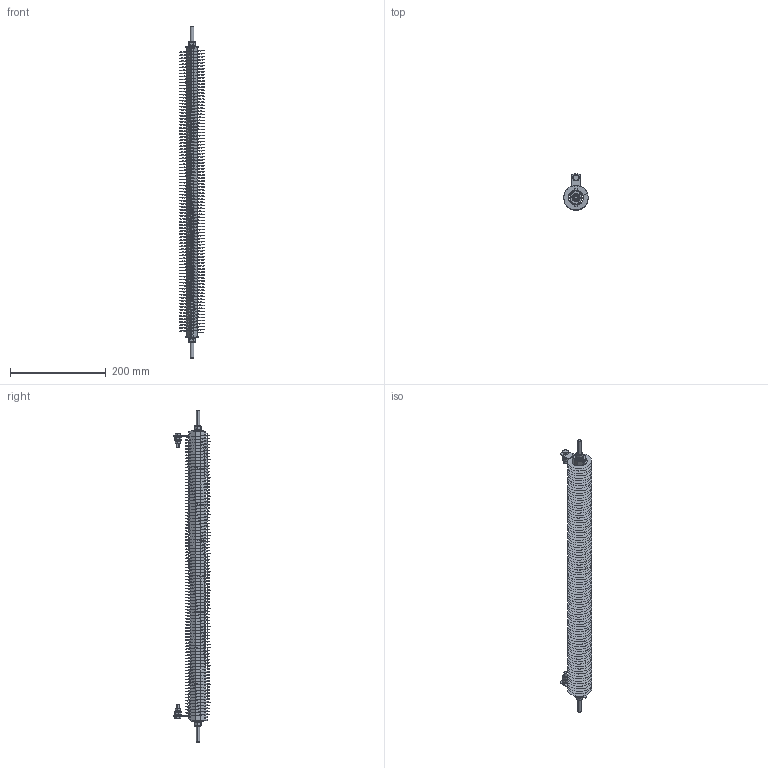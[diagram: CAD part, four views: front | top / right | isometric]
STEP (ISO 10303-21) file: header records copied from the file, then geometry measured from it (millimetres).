
FILE_DESCRIPTION (( 'STEP AP214' ), '1' );
FILE_NAME ('EDGS1600.STEP', '2014-06-05T12:43:21', ( '' ), ( '' ), 'SwSTEP 2.0', 'SolidWorks 2012', '' );
FILE_SCHEMA (( 'AUTOMOTIVE_DESIGN' ));
Length unit declared in the file: millimetre
Products named in the file (14): 032-012 - STUD MOUNT CERAMICS_032-012-TSMCL; Hex Nut01_0.3125" - 0.26" thk; Lock Washer_0.3125" - 0.08" thk; Flat Washer_.3125" - .68" - .05"thk; Flat Washer_.25" - .5" - .04"thk; 12-800-011; lock washer spring_Regular LW 0.25; hex nut_HNUT 0.2500-20-D-C; Hex Head Srew_HBOLT 0.2500-20x1x1-C; 326167; Helical Coil_1600; 032-012 - STUD MOUNT CERAMICS_032-012-TSECL; 0.30 inch threaded rod_0.3125" - 27.375" long; EDGS1600
Assembly tree (32 placements, depth 2):
  EDGS1600
    0.30 inch threaded rod_0.3125" - 27.375" long
    032-012 - STUD MOUNT CERAMICS_032-012-TSECL  x2
    Helical Coil_1600
    326167  x2
    Hex Head Srew_HBOLT 0.2500-20x1x1-C  x2
    hex nut_HNUT 0.2500-20-D-C  x4
    lock washer spring_Regular LW 0.25  x2
    12-800-011  x2
    Flat Washer_.25" - .5" - .04"thk  x4
    Flat Washer_.3125" - .68" - .05"thk  x2
    Lock Washer_0.3125" - 0.08" thk  x2
    Hex Nut01_0.3125" - 0.26" thk  x2
    032-012 - STUD MOUNT CERAMICS_032-012-TSMCL  x6
Bounding box: 50.8 x 75.4 x 695.3 mm (x, y, z)
Volume: 365325.5 mm3; surface area: 350616.7 mm2
Topology: 32 solids, 32 shells, 1246 faces, 3422 edges, 2228 vertices
Faces by surface type: bspline 596, plane 412, cone 120, cylinder 102, torus 16
Entity records: 140881 total; most frequent: CARTESIAN_POINT 132734, ORIENTED_EDGE 1952, DIRECTION 1055, EDGE_CURVE 976, VERTEX_POINT 632, AXIS2_PLACEMENT_3D 394, EDGE_LOOP 382, FACE_OUTER_BOUND 368
